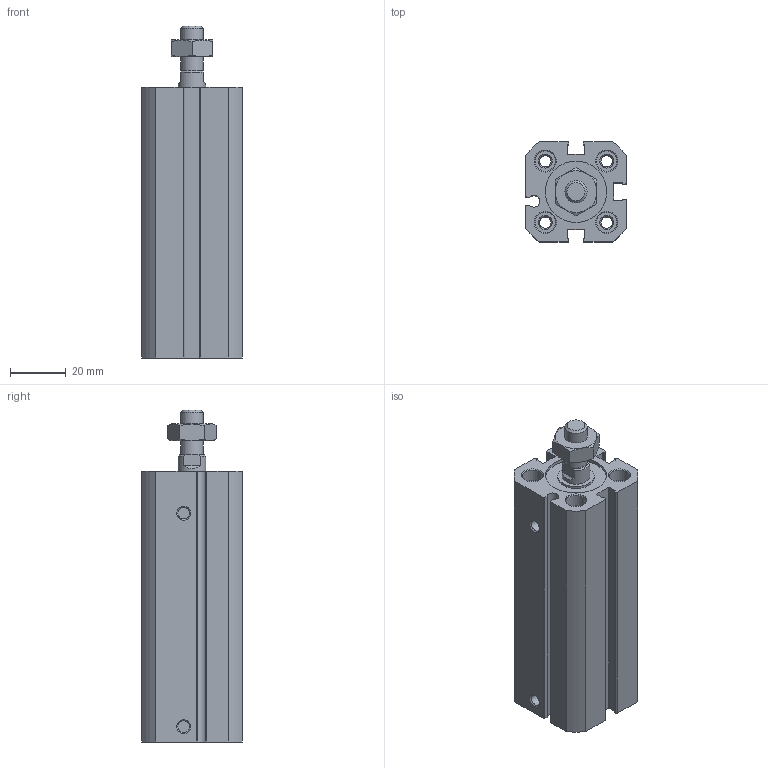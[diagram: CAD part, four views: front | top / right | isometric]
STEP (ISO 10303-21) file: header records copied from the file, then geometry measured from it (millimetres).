
FILE_DESCRIPTION( ( 'STEP AP214' ), '1' );
FILE_NAME( 'C:/Users/EMC02301/Desktop/RU0638 SF外牙 图纸/SF20X60-S-M.stp', '2026-07-24T09:21:41', ( 'License CC BY-ND 4.0' ), ( 'CADENAS' ), ' ', 'PARTsolutions', ' ' );
FILE_SCHEMA( ( 'AUTOMOTIVE_DESIGN { 1 0 10303 214 1 1 1 1 }' ) );
Length unit declared in the file: millimetre
Products named in the file (3): SF20X60-S-M()(00); _SF20X60()(_body) ; _SF20X60-M(rod-0)
Assembly tree (2 placements, depth 2):
  SF20X60-S-M()(00)
    _SF20X60()(_body) 
    _SF20X60-M(rod-0)
Bounding box: 36 x 36 x 119 mm (x, y, z)
Volume: 92538.8 mm3; surface area: 34750.7 mm2
Topology: 2 solids, 2 shells, 154 faces, 362 edges, 230 vertices
Faces by surface type: plane 65, cylinder 54, cone 35
Full cylindrical faces by diameter (mm): 4.134 x6, 7.3 x8, 8 x2, 10 x2, 13 x1, 20 x3, 22 x1
Entity records: 5568 total; most frequent: CARTESIAN_POINT 847, DIRECTION 748, ORIENTED_EDGE 630, EDGE_CURVE 315, AXIS2_PLACEMENT_3D 304, VERTEX_POINT 227, EDGE_LOOP 224, FACE_OUTER_BOUND 177
